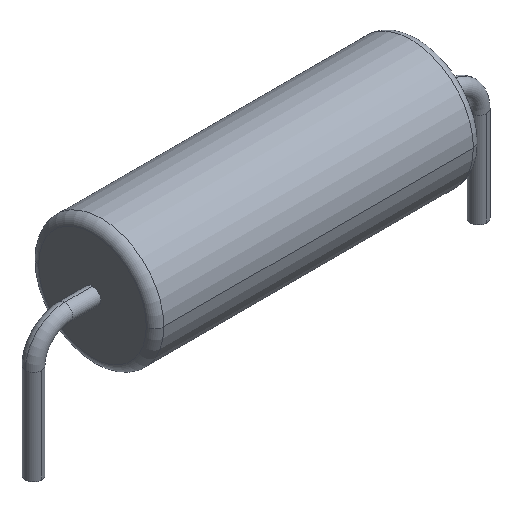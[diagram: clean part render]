
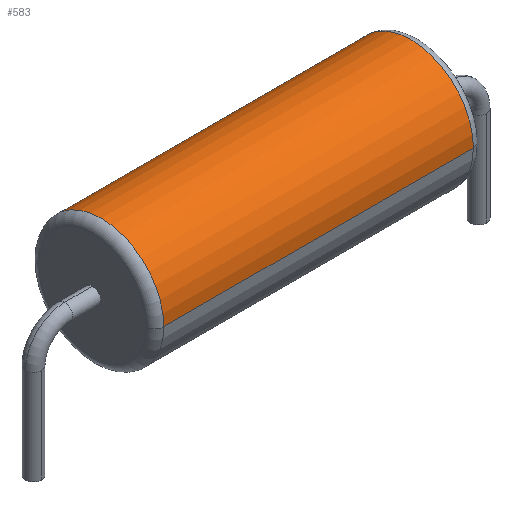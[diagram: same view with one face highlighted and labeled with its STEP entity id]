
A CAD part, isometric view. The second image highlights one B-rep face of the part: STEP entity #583.
In plain terms, the highlighted cylindrical face has radius 1.968 mm (diameter 3.937 mm), a partial arc.
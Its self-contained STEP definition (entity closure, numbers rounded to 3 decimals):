
#519 = CARTESIAN_POINT ( 'NONE',  ( 4.868, 1.969, 1.969 ) ) ;
#520 = VERTEX_POINT ( 'NONE', #519 ) ;
#528 = CARTESIAN_POINT ( 'NONE',  ( 4.868, -1.969, 1.969 ) ) ;
#529 = VERTEX_POINT ( 'NONE', #528 ) ;
#530 = CARTESIAN_POINT ( 'NONE',  ( 4.868, 0., 1.969 ) ) ;
#531 = DIRECTION ( 'NONE',  ( -1., 0., 0. ) ) ;
#532 = DIRECTION ( 'NONE',  ( 0., -1., 0. ) ) ;
#533 = AXIS2_PLACEMENT_3D ( 'NONE', #530, #531, #532 ) ;
#534 = CIRCLE ( 'NONE', #533, 1.969) ;
#535 = EDGE_CURVE ( 'NONE', #529, #520, #534, .T. ) ;
#552 = ORIENTED_EDGE ( 'NONE', *, *, #535, .T. ) ;
#553 = CARTESIAN_POINT ( 'NONE',  ( -4.868, 1.969, 1.969 ) ) ;
#554 = VERTEX_POINT ( 'NONE', #553 ) ;
#555 = CARTESIAN_POINT ( 'NONE',  ( -5.144, 1.969, 1.969 ) ) ;
#556 = DIRECTION ( 'NONE',  ( -1., 0., 0. ) ) ;
#557 = VECTOR ( 'NONE', #556, 1000. ) ;
#558 = LINE ( 'NONE', #555, #557 ) ;
#559 = EDGE_CURVE ( 'NONE', #520, #554, #558, .T. ) ;
#560 = ORIENTED_EDGE ( 'NONE', *, *, #559, .T. ) ;
#561 = CARTESIAN_POINT ( 'NONE',  ( -4.868, -1.969, 1.969 ) ) ;
#562 = VERTEX_POINT ( 'NONE', #561 ) ;
#563 = CARTESIAN_POINT ( 'NONE',  ( -4.868, 0., 1.969 ) ) ;
#564 = DIRECTION ( 'NONE',  ( -1., 0., 0. ) ) ;
#565 = DIRECTION ( 'NONE',  ( 0., -1., 0. ) ) ;
#566 = AXIS2_PLACEMENT_3D ( 'NONE', #563, #564, #565 ) ;
#567 = CIRCLE ( 'NONE', #566, 1.969) ;
#568 = EDGE_CURVE ( 'NONE', #562, #554, #567, .T. ) ;
#569 = ORIENTED_EDGE ( 'NONE', *, *, #568, .F. ) ;
#570 = CARTESIAN_POINT ( 'NONE',  ( -5.144, -1.969, 1.969 ) ) ;
#571 = DIRECTION ( 'NONE',  ( -1., 0., 0. ) ) ;
#572 = VECTOR ( 'NONE', #571, 1000. ) ;
#573 = LINE ( 'NONE', #570, #572 ) ;
#574 = EDGE_CURVE ( 'NONE', #529, #562, #573, .T. ) ;
#575 = ORIENTED_EDGE ( 'NONE', *, *, #574, .F. ) ;
#576 = EDGE_LOOP ( 'NONE', ( #552, #560, #569, #575 ) ) ;
#577 = FACE_OUTER_BOUND ( 'NONE', #576, .T. ) ;
#578 = CARTESIAN_POINT ( 'NONE',  ( -5.144, 0., 1.969 ) ) ;
#579 = DIRECTION ( 'NONE',  ( -1., 0., 0. ) ) ;
#580 = DIRECTION ( 'NONE',  ( 0., -1., 0. ) ) ;
#581 = AXIS2_PLACEMENT_3D ( 'NONE', #578, #579, #580 ) ;
#582 = CYLINDRICAL_SURFACE ( 'NONE', #581, 1.969) ;
#583 = ADVANCED_FACE ( 'NONE', ( #577 ), #582, .T. ) ;
